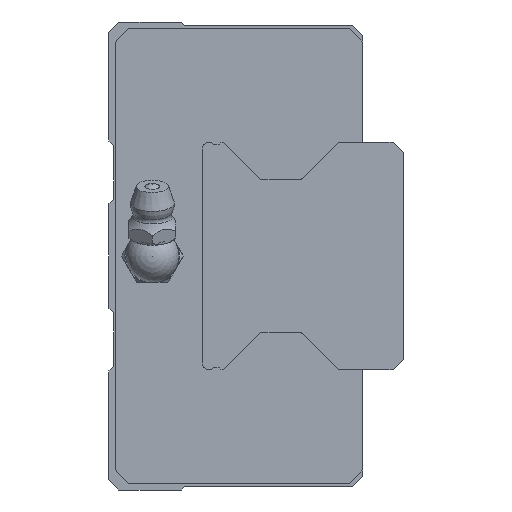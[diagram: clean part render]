
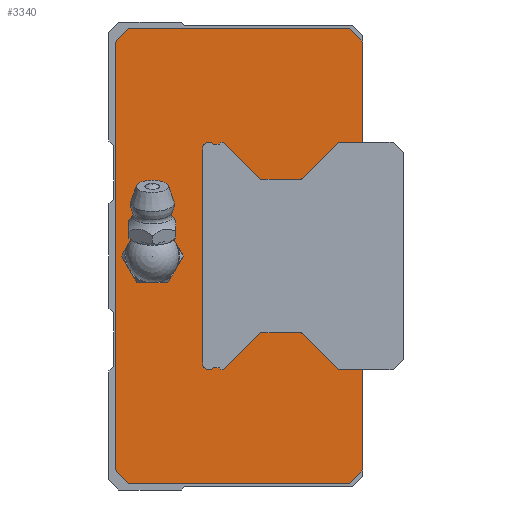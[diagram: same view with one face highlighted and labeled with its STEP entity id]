
A CAD part, left-side view. The second image highlights one B-rep face of the part: STEP entity #3340.
In plain terms, the highlighted planar face has unit normal (-1, 0, 0).
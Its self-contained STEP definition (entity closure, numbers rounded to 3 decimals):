
#152=CIRCLE('',#3627,3.);
#153=CIRCLE('',#3628,0.3);
#154=CIRCLE('',#3629,0.3);
#155=CIRCLE('',#3630,1.);
#156=CIRCLE('',#3631,1.);
#157=CIRCLE('',#3632,0.3);
#158=CIRCLE('',#3633,0.3);
#603=ORIENTED_EDGE('',*,*,#1369,.T.);
#604=ORIENTED_EDGE('',*,*,#1370,.T.);
#605=ORIENTED_EDGE('',*,*,#1362,.F.);
#606=ORIENTED_EDGE('',*,*,#1290,.F.);
#607=ORIENTED_EDGE('',*,*,#1286,.F.);
#608=ORIENTED_EDGE('',*,*,#1278,.F.);
#609=ORIENTED_EDGE('',*,*,#1354,.F.);
#610=ORIENTED_EDGE('',*,*,#1263,.F.);
#611=ORIENTED_EDGE('',*,*,#1301,.F.);
#612=ORIENTED_EDGE('',*,*,#1298,.F.);
#613=ORIENTED_EDGE('',*,*,#1364,.F.);
#614=ORIENTED_EDGE('',*,*,#1371,.T.);
#615=ORIENTED_EDGE('',*,*,#1372,.T.);
#616=ORIENTED_EDGE('',*,*,#1373,.F.);
#617=ORIENTED_EDGE('',*,*,#1374,.T.);
#618=ORIENTED_EDGE('',*,*,#1375,.F.);
#619=ORIENTED_EDGE('',*,*,#1376,.T.);
#620=ORIENTED_EDGE('',*,*,#1377,.T.);
#621=ORIENTED_EDGE('',*,*,#1378,.T.);
#622=ORIENTED_EDGE('',*,*,#1379,.T.);
#623=ORIENTED_EDGE('',*,*,#1380,.T.);
#624=ORIENTED_EDGE('',*,*,#1381,.T.);
#625=ORIENTED_EDGE('',*,*,#1382,.T.);
#626=ORIENTED_EDGE('',*,*,#1383,.T.);
#627=ORIENTED_EDGE('',*,*,#1384,.T.);
#628=ORIENTED_EDGE('',*,*,#1385,.T.);
#629=ORIENTED_EDGE('',*,*,#1386,.T.);
#630=ORIENTED_EDGE('',*,*,#1387,.F.);
#631=ORIENTED_EDGE('',*,*,#1388,.T.);
#632=ORIENTED_EDGE('',*,*,#1389,.F.);
#633=ORIENTED_EDGE('',*,*,#1390,.T.);
#1263=EDGE_CURVE('',#1686,#1687,#2003,.T.);
#1278=EDGE_CURVE('',#1701,#1702,#2018,.T.);
#1286=EDGE_CURVE('',#1702,#1708,#2025,.T.);
#1290=EDGE_CURVE('',#1708,#1710,#2029,.T.);
#1298=EDGE_CURVE('',#1717,#1718,#2037,.T.);
#1301=EDGE_CURVE('',#1718,#1686,#2040,.T.);
#1354=EDGE_CURVE('',#1687,#1701,#2090,.T.);
#1362=EDGE_CURVE('',#1710,#1757,#2098,.T.);
#1364=EDGE_CURVE('',#1760,#1717,#2100,.T.);
#1369=EDGE_CURVE('',#1764,#1764,#152,.T.);
#1370=EDGE_CURVE('',#1765,#1757,#2105,.T.);
#1371=EDGE_CURVE('',#1760,#1766,#2106,.T.);
#1372=EDGE_CURVE('',#1766,#1767,#2107,.T.);
#1373=EDGE_CURVE('',#1768,#1767,#153,.T.);
#1374=EDGE_CURVE('',#1768,#1769,#2108,.T.);
#1375=EDGE_CURVE('',#1770,#1769,#154,.T.);
#1376=EDGE_CURVE('',#1770,#1771,#2109,.T.);
#1377=EDGE_CURVE('',#1771,#1772,#2110,.T.);
#1378=EDGE_CURVE('',#1772,#1773,#2111,.T.);
#1379=EDGE_CURVE('',#1773,#1774,#2112,.T.);
#1380=EDGE_CURVE('',#1774,#1775,#155,.T.);
#1381=EDGE_CURVE('',#1775,#1776,#2113,.T.);
#1382=EDGE_CURVE('',#1776,#1777,#156,.T.);
#1383=EDGE_CURVE('',#1777,#1778,#2114,.T.);
#1384=EDGE_CURVE('',#1778,#1779,#2115,.T.);
#1385=EDGE_CURVE('',#1779,#1780,#2116,.T.);
#1386=EDGE_CURVE('',#1780,#1781,#2117,.T.);
#1387=EDGE_CURVE('',#1782,#1781,#157,.T.);
#1388=EDGE_CURVE('',#1782,#1783,#2118,.T.);
#1389=EDGE_CURVE('',#1784,#1783,#158,.T.);
#1390=EDGE_CURVE('',#1784,#1765,#2119,.T.);
#1686=VERTEX_POINT('',#5022);
#1687=VERTEX_POINT('',#5024);
#1701=VERTEX_POINT('',#5053);
#1702=VERTEX_POINT('',#5055);
#1708=VERTEX_POINT('',#5071);
#1710=VERTEX_POINT('',#5078);
#1717=VERTEX_POINT('',#5093);
#1718=VERTEX_POINT('',#5095);
#1757=VERTEX_POINT('',#5208);
#1760=VERTEX_POINT('',#5218);
#1764=VERTEX_POINT('',#5229);
#1765=VERTEX_POINT('',#5231);
#1766=VERTEX_POINT('',#5233);
#1767=VERTEX_POINT('',#5235);
#1768=VERTEX_POINT('',#5237);
#1769=VERTEX_POINT('',#5239);
#1770=VERTEX_POINT('',#5241);
#1771=VERTEX_POINT('',#5243);
#1772=VERTEX_POINT('',#5245);
#1773=VERTEX_POINT('',#5247);
#1774=VERTEX_POINT('',#5249);
#1775=VERTEX_POINT('',#5251);
#1776=VERTEX_POINT('',#5253);
#1777=VERTEX_POINT('',#5255);
#1778=VERTEX_POINT('',#5257);
#1779=VERTEX_POINT('',#5259);
#1780=VERTEX_POINT('',#5261);
#1781=VERTEX_POINT('',#5263);
#1782=VERTEX_POINT('',#5265);
#1783=VERTEX_POINT('',#5267);
#1784=VERTEX_POINT('',#5269);
#2003=LINE('',#5023,#2309);
#2018=LINE('',#5054,#2324);
#2025=LINE('',#5070,#2331);
#2029=LINE('',#5077,#2335);
#2037=LINE('',#5094,#2343);
#2040=LINE('',#5099,#2346);
#2090=LINE('',#5201,#2396);
#2098=LINE('',#5215,#2404);
#2100=LINE('',#5220,#2406);
#2105=LINE('',#5230,#2411);
#2106=LINE('',#5232,#2412);
#2107=LINE('',#5234,#2413);
#2108=LINE('',#5238,#2414);
#2109=LINE('',#5242,#2415);
#2110=LINE('',#5244,#2416);
#2111=LINE('',#5246,#2417);
#2112=LINE('',#5248,#2418);
#2113=LINE('',#5252,#2419);
#2114=LINE('',#5256,#2420);
#2115=LINE('',#5258,#2421);
#2116=LINE('',#5260,#2422);
#2117=LINE('',#5262,#2423);
#2118=LINE('',#5266,#2424);
#2119=LINE('',#5270,#2425);
#2309=VECTOR('',#4078,1000.);
#2324=VECTOR('',#4095,1000.);
#2331=VECTOR('',#4108,1000.);
#2335=VECTOR('',#4114,1000.);
#2343=VECTOR('',#4124,1000.);
#2346=VECTOR('',#4129,1000.);
#2396=VECTOR('',#4209,1000.);
#2404=VECTOR('',#4221,1000.);
#2406=VECTOR('',#4225,1000.);
#2411=VECTOR('',#4234,1000.);
#2412=VECTOR('',#4235,1000.);
#2413=VECTOR('',#4236,1000.);
#2414=VECTOR('',#4239,1000.);
#2415=VECTOR('',#4242,1000.);
#2416=VECTOR('',#4243,1000.);
#2417=VECTOR('',#4244,1000.);
#2418=VECTOR('',#4245,1000.);
#2419=VECTOR('',#4248,1000.);
#2420=VECTOR('',#4251,1000.);
#2421=VECTOR('',#4252,1000.);
#2422=VECTOR('',#4253,1000.);
#2423=VECTOR('',#4254,1000.);
#2424=VECTOR('',#4257,1000.);
#2425=VECTOR('',#4260,1000.);
#2661=EDGE_LOOP('',(#603));
#2662=EDGE_LOOP('',(#604,#605,#606,#607,#608,#609,#610,#611,#612,#613,#614,
#615,#616,#617,#618,#619,#620,#621,#622,#623,#624,#625,#626,#627,#628,#629,
#630,#631,#632,#633));
#2952=FACE_BOUND('',#2661,.T.);
#2953=FACE_BOUND('',#2662,.T.);
#3195=PLANE('',#3626);
#3340=ADVANCED_FACE('',(#2952,#2953),#3195,.F.);
#3626=AXIS2_PLACEMENT_3D('',#5227,#4230,#4231);
#3627=AXIS2_PLACEMENT_3D('',#5228,#4232,#4233);
#3628=AXIS2_PLACEMENT_3D('',#5236,#4237,#4238);
#3629=AXIS2_PLACEMENT_3D('',#5240,#4240,#4241);
#3630=AXIS2_PLACEMENT_3D('',#5250,#4246,#4247);
#3631=AXIS2_PLACEMENT_3D('',#5254,#4249,#4250);
#3632=AXIS2_PLACEMENT_3D('',#5264,#4255,#4256);
#3633=AXIS2_PLACEMENT_3D('',#5268,#4258,#4259);
#4078=DIRECTION('',(0.,0.707,0.707));
#4095=DIRECTION('',(0.,-0.707,0.707));
#4108=DIRECTION('',(0.,-1.,0.));
#4114=DIRECTION('',(0.,-0.707,-0.707));
#4124=DIRECTION('',(0.,0.707,-0.707));
#4129=DIRECTION('',(0.,1.,0.));
#4209=DIRECTION('',(0.,0.,1.));
#4221=DIRECTION('',(0.,0.,-1.));
#4225=DIRECTION('',(0.,0.,-1.));
#4230=DIRECTION('',(1.,0.,0.));
#4231=DIRECTION('',(0.,0.,-1.));
#4232=DIRECTION('',(1.,0.,0.));
#4233=DIRECTION('',(0.,0.,-1.));
#4234=DIRECTION('',(0.,-1.,0.));
#4235=DIRECTION('',(0.,1.,0.));
#4236=DIRECTION('',(0.,0.707,0.707));
#4237=DIRECTION('',(1.,0.,0.));
#4238=DIRECTION('',(0.,0.,-1.));
#4239=DIRECTION('',(0.,1.,0.));
#4240=DIRECTION('',(1.,0.,0.));
#4241=DIRECTION('',(0.,0.,-1.));
#4242=DIRECTION('',(0.,0.707,-0.707));
#4243=DIRECTION('',(0.,1.,0.));
#4244=DIRECTION('',(0.,0.707,0.707));
#4245=DIRECTION('',(0.,1.,0.));
#4246=DIRECTION('',(1.,0.,0.));
#4247=DIRECTION('',(0.,0.,-1.));
#4248=DIRECTION('',(0.,0.,1.));
#4249=DIRECTION('',(1.,0.,0.));
#4250=DIRECTION('',(0.,0.,-1.));
#4251=DIRECTION('',(0.,-1.,0.));
#4252=DIRECTION('',(0.,-0.707,0.707));
#4253=DIRECTION('',(0.,-1.,0.));
#4254=DIRECTION('',(0.,-0.707,-0.707));
#4255=DIRECTION('',(1.,0.,0.));
#4256=DIRECTION('',(0.,0.,-1.));
#4257=DIRECTION('',(0.,-1.,0.));
#4258=DIRECTION('',(1.,0.,0.));
#4259=DIRECTION('',(0.,0.,-1.));
#4260=DIRECTION('',(0.,-0.707,0.707));
#5022=CARTESIAN_POINT('',(-90.4,35.,-34.));
#5023=CARTESIAN_POINT('',(-90.4,35.,-34.));
#5024=CARTESIAN_POINT('',(-90.4,37.,-32.));
#5053=CARTESIAN_POINT('',(-90.4,37.,32.));
#5054=CARTESIAN_POINT('',(-90.4,37.,32.));
#5055=CARTESIAN_POINT('',(-90.4,35.,34.));
#5070=CARTESIAN_POINT('',(-90.4,35.,34.));
#5071=CARTESIAN_POINT('',(-90.4,2.,34.));
#5077=CARTESIAN_POINT('',(-90.4,2.,34.));
#5078=CARTESIAN_POINT('',(-90.4,0.,32.));
#5093=CARTESIAN_POINT('',(-90.4,0.,-32.));
#5094=CARTESIAN_POINT('',(-90.4,0.,-32.));
#5095=CARTESIAN_POINT('',(-90.4,2.,-34.));
#5099=CARTESIAN_POINT('',(-90.4,2.,-34.));
#5201=CARTESIAN_POINT('',(-90.4,37.,-32.));
#5208=CARTESIAN_POINT('',(-90.4,0.,17.));
#5215=CARTESIAN_POINT('',(-90.4,0.,32.));
#5218=CARTESIAN_POINT('',(-90.4,0.,-17.));
#5220=CARTESIAN_POINT('',(-90.4,0.,32.));
#5227=CARTESIAN_POINT('',(-90.4,0.,0.));
#5228=CARTESIAN_POINT('',(-90.4,31.5,0.));
#5229=CARTESIAN_POINT('',(-90.4,31.5,-3.));
#5230=CARTESIAN_POINT('',(-90.4,3.7,17.));
#5231=CARTESIAN_POINT('',(-90.4,3.7,17.));
#5232=CARTESIAN_POINT('',(-90.4,-4.5,-17.));
#5233=CARTESIAN_POINT('',(-90.4,3.7,-17.));
#5234=CARTESIAN_POINT('',(-90.4,3.7,-17.));
#5235=CARTESIAN_POINT('',(-90.4,9.112,-11.588));
#5236=CARTESIAN_POINT('',(-90.4,9.324,-11.8));
#5237=CARTESIAN_POINT('',(-90.4,9.324,-11.5));
#5238=CARTESIAN_POINT('',(-90.4,9.324,-11.5));
#5239=CARTESIAN_POINT('',(-90.4,15.276,-11.5));
#5240=CARTESIAN_POINT('',(-90.4,15.276,-11.8));
#5241=CARTESIAN_POINT('',(-90.4,15.488,-11.588));
#5242=CARTESIAN_POINT('',(-90.4,15.488,-11.588));
#5243=CARTESIAN_POINT('',(-90.4,20.9,-17.));
#5244=CARTESIAN_POINT('',(-90.4,20.9,-17.));
#5245=CARTESIAN_POINT('',(-90.4,21.25,-17.));
#5246=CARTESIAN_POINT('',(-90.4,21.25,-17.));
#5247=CARTESIAN_POINT('',(-90.4,21.5,-16.75));
#5248=CARTESIAN_POINT('',(-90.4,21.5,-16.75));
#5249=CARTESIAN_POINT('',(-90.4,22.339,-16.75));
#5250=CARTESIAN_POINT('',(-90.4,23.,-16.));
#5251=CARTESIAN_POINT('',(-90.4,24.,-16.));
#5252=CARTESIAN_POINT('',(-90.4,24.,-16.));
#5253=CARTESIAN_POINT('',(-90.4,24.,16.));
#5254=CARTESIAN_POINT('',(-90.4,23.,16.));
#5255=CARTESIAN_POINT('',(-90.4,22.339,16.75));
#5256=CARTESIAN_POINT('',(-90.4,22.339,16.75));
#5257=CARTESIAN_POINT('',(-90.4,21.5,16.75));
#5258=CARTESIAN_POINT('',(-90.4,21.5,16.75));
#5259=CARTESIAN_POINT('',(-90.4,21.25,17.));
#5260=CARTESIAN_POINT('',(-90.4,21.25,17.));
#5261=CARTESIAN_POINT('',(-90.4,20.9,17.));
#5262=CARTESIAN_POINT('',(-90.4,20.9,17.));
#5263=CARTESIAN_POINT('',(-90.4,15.488,11.588));
#5264=CARTESIAN_POINT('',(-90.4,15.276,11.8));
#5265=CARTESIAN_POINT('',(-90.4,15.276,11.5));
#5266=CARTESIAN_POINT('',(-90.4,15.276,11.5));
#5267=CARTESIAN_POINT('',(-90.4,9.324,11.5));
#5268=CARTESIAN_POINT('',(-90.4,9.324,11.8));
#5269=CARTESIAN_POINT('',(-90.4,9.112,11.588));
#5270=CARTESIAN_POINT('',(-90.4,9.112,11.588));
